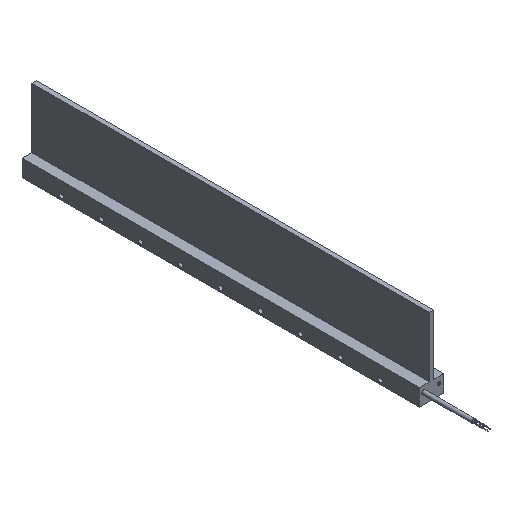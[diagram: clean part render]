
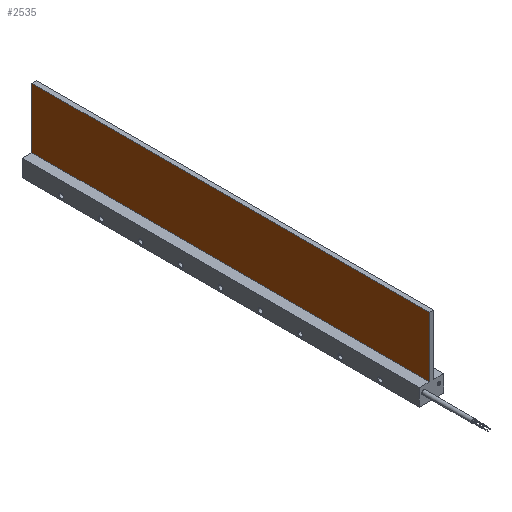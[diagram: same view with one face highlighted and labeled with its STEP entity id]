
A CAD part, isometric view. The second image highlights one B-rep face of the part: STEP entity #2535.
In plain terms, the highlighted planar face has unit normal (-1, 0, 0).
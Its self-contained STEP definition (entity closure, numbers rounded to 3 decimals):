
#21=DIRECTION('',(0.,0.,1.));
#22=VECTOR('',#21,60.3);
#23=CARTESIAN_POINT('',(-2.2,-199.4,0.));
#24=LINE('',#23,#22);
#71=DIRECTION('',(0.,1.,0.));
#72=VECTOR('',#71,398.8);
#73=CARTESIAN_POINT('',(-2.2,-199.4,60.3));
#74=LINE('',#73,#72);
#75=DIRECTION('',(0.,1.,0.));
#76=VECTOR('',#75,398.8);
#77=CARTESIAN_POINT('',(-2.2,-199.4,0.));
#78=LINE('',#77,#76);
#487=DIRECTION('',(0.,0.,1.));
#488=VECTOR('',#487,60.3);
#489=CARTESIAN_POINT('',(-2.2,199.4,0.));
#490=LINE('',#489,#488);
#1911=CARTESIAN_POINT('',(-2.2,-199.4,0.));
#1912=VERTEX_POINT('',#1911);
#1913=CARTESIAN_POINT('',(-2.2,-199.4,60.3));
#1914=VERTEX_POINT('',#1913);
#1927=CARTESIAN_POINT('',(-2.2,199.4,0.));
#1928=VERTEX_POINT('',#1927);
#1929=CARTESIAN_POINT('',(-2.2,199.4,60.3));
#1930=VERTEX_POINT('',#1929);
#2522=CARTESIAN_POINT('',(-2.2,-199.4,0.));
#2523=DIRECTION('',(-1.,0.,0.));
#2524=DIRECTION('',(0.,0.,1.));
#2525=AXIS2_PLACEMENT_3D('',#2522,#2523,#2524);
#2526=PLANE('',#2525);
#2527=ORIENTED_EDGE('',*,*,#2452,.F.);
#2529=ORIENTED_EDGE('',*,*,#2528,.T.);
#2531=ORIENTED_EDGE('',*,*,#2530,.T.);
#2532=ORIENTED_EDGE('',*,*,#2514,.F.);
#2533=EDGE_LOOP('',(#2527,#2529,#2531,#2532));
#2534=FACE_OUTER_BOUND('',#2533,.F.);
#2535=ADVANCED_FACE('',(#2534),#2526,.T.);
#2452=EDGE_CURVE('',#1912,#1914,#24,.T.);
#2514=EDGE_CURVE('',#1914,#1930,#74,.T.);
#2528=EDGE_CURVE('',#1912,#1928,#78,.T.);
#2530=EDGE_CURVE('',#1928,#1930,#490,.T.);
